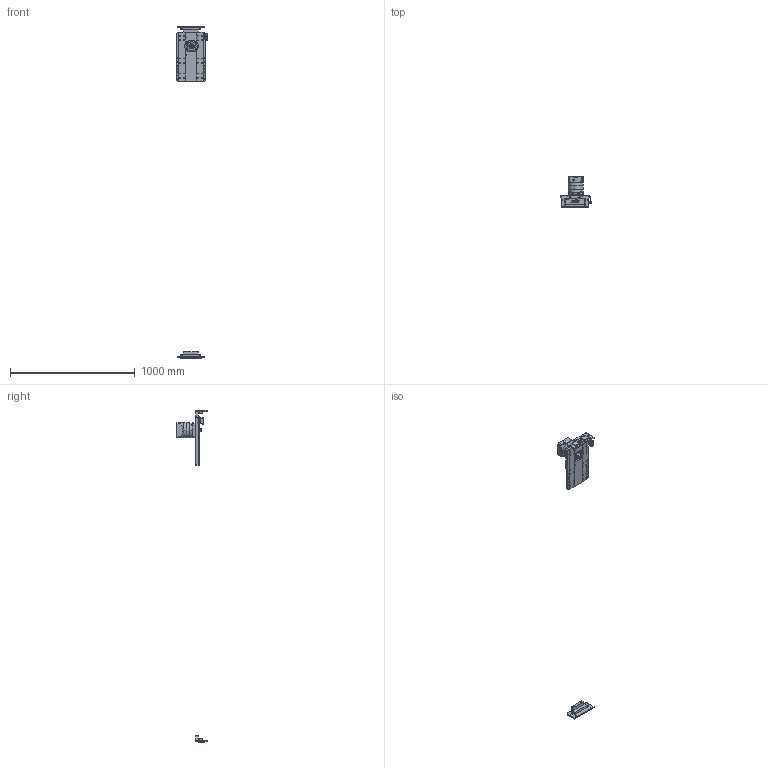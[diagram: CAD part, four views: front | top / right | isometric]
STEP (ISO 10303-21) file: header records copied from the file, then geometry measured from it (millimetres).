
FILE_DESCRIPTION (( 'STEP AP203' ), '1' );
FILE_NAME ('RY220-C-300-UK.SLDASM_2150.step', '2022-08-01T05:59:55', ( '' ), ( '' ), 'SwSTEP 2.0', 'SolidWorks 2016', '' );
FILE_SCHEMA (( 'CONFIG_CONTROL_DESIGN' ));
Length unit declared in the file: millimetre
Products named in the file (10): 滅袉蝶輸ㄗG412隅秶ㄘ; RY140直线电机感应器674光电安装座; 覜茼ん674; RY220-齿条模组电机安装板; RY220喘沭綴裔啣; RY220喘沭賑輸; RY220菁釱MK-300_2150; RY220-C-300-UK.SLDASM_2150; PF115L1-S2-22-58-110-145-M8; RY220喘沭俋离覜茼え
Assembly tree (12 placements, depth 2):
  RY220-C-300-UK.SLDASM_2150
    RY220菁釱MK-300_2150
    RY220喘沭賑輸
    RY220-齿条模组电机安装板
    PF115L1-S2-22-58-110-145-M8
    RY220喘沭綴裔啣  x2
    滅袉蝶輸ㄗG412隅秶ㄘ  x2
    RY140直线电机感应器674光电安装座
    覜茼ん674  x2
    RY220喘沭俋离覜茼え
Bounding box: 247 x 244 x 2659 mm (x, y, z)
Volume: 4410470.2 mm3; surface area: 668229.7 mm2
Topology: 17 solids, 25 shells, 1382 faces, 3603 edges, 2355 vertices
Faces by surface type: plane 637, cylinder 553, bspline 162, cone 30
Entity records: 71301 total; most frequent: CARTESIAN_POINT 19457, DIRECTION 10683, ORIENTED_EDGE 10466, EDGE_CURVE 5233, AXIS2_PLACEMENT_3D 4085, VERTEX_POINT 3417, EDGE_LOOP 2606, LINE 2513
